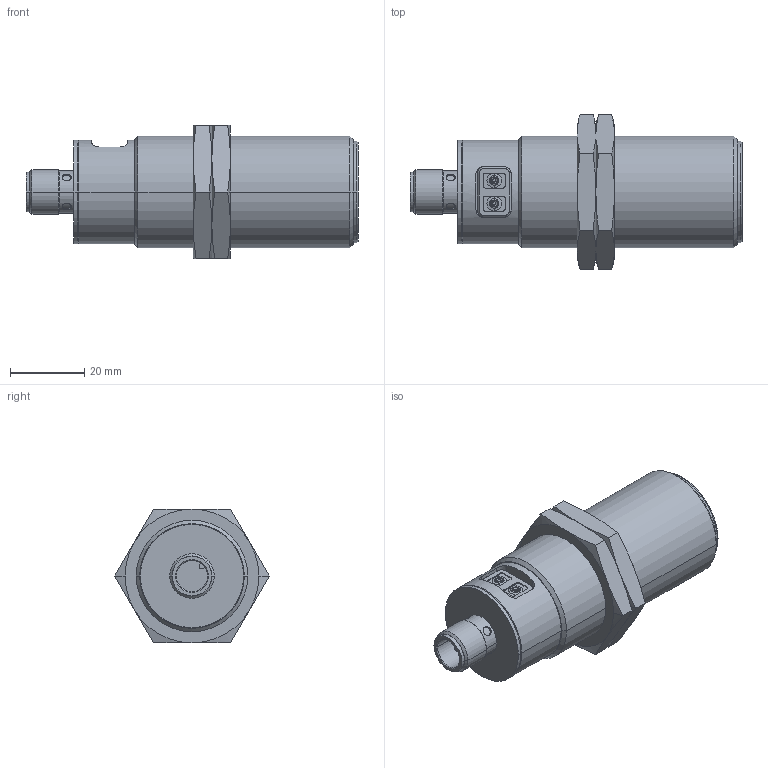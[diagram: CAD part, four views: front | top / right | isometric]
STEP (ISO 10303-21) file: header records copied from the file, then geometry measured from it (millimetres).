
FILE_DESCRIPTION( ( '' ), '1' );
FILE_NAME( '//partserver001.servicenet/client_exchange/iodir/jobs/output/wkb15158296_no6/STEP/ki5084_2_03.stp', '2009-03-19T07:19:09', ( '' ), ( '' ), ' ', ' ', ' ' );
FILE_SCHEMA( ( 'CONFIG_CONTROL_DESIGN' ) );
Length unit declared in the file: millimetre
Products named in the file (3): 1; 2; 3
Bounding box: 89.31 x 41.57 x 36 mm (x, y, z)
Volume: 57454.3 mm3; surface area: 13053.8 mm2
Topology: 3 solids, 3 shells, 170 faces, 388 edges, 238 vertices
Faces by surface type: cone 70, plane 49, cylinder 47, torus 4
Entity records: 5148 total; most frequent: CARTESIAN_POINT 1243, DIRECTION 822, ORIENTED_EDGE 776, EDGE_CURVE 388, AXIS2_PLACEMENT_3D 333, VERTEX_POINT 238, EDGE_LOOP 188, ADVANCED_FACE 170
